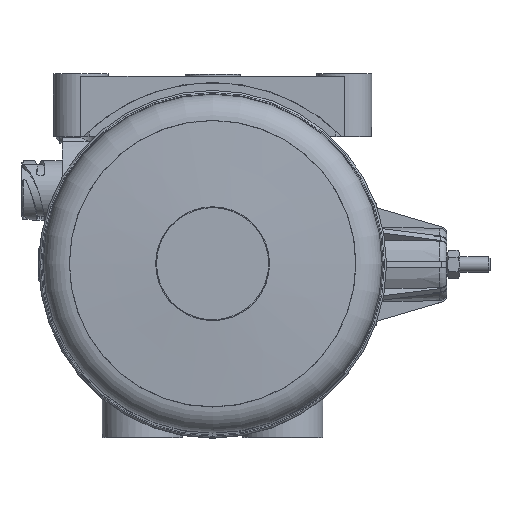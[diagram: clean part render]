
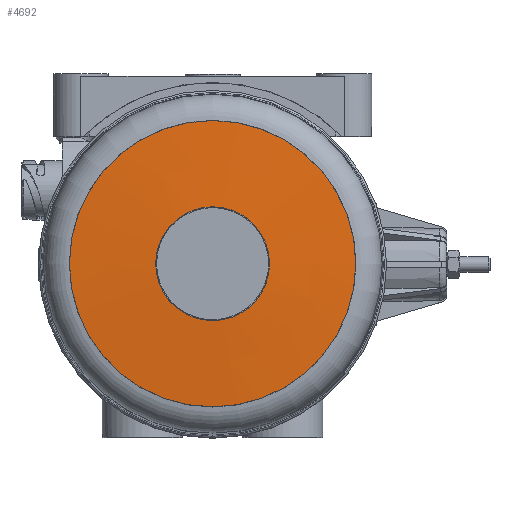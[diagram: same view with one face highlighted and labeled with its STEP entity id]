
A CAD part, top view. The second image highlights one B-rep face of the part: STEP entity #4692.
In plain terms, the highlighted conical face has half-angle 86.662 degrees and reference radius 57.141 mm.
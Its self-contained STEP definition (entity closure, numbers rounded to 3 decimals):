
#1758=CONICAL_SURFACE('',#39304,57.141,86.662);
#4692=ADVANCED_FACE('',(#12615,#12616),#1758,.T.);
#12615=FACE_BOUND('',#13968,.T.);
#12616=FACE_BOUND('',#13969,.T.);
#13968=EDGE_LOOP('',(#18807));
#13969=EDGE_LOOP('',(#18808));
#18807=ORIENTED_EDGE('',*,*,#32361,.F.);
#18808=ORIENTED_EDGE('',*,*,#32360,.T.);
#28057=VERTEX_POINT('',#59573);
#28058=VERTEX_POINT('',#59576);
#32360=EDGE_CURVE('',#28057,#28057,#36829,.T.);
#32361=EDGE_CURVE('',#28058,#28058,#36830,.T.);
#36829=CIRCLE('',#39301,57.141);
#36830=CIRCLE('',#39303,22.704);
#39301=AXIS2_PLACEMENT_3D('',#59572,#45027,#45028);
#39303=AXIS2_PLACEMENT_3D('',#59575,#45031,#45032);
#39304=AXIS2_PLACEMENT_3D('',#59577,#45033,#45034);
#45027=DIRECTION('',(0.,0.,1.));
#45028=DIRECTION('',(-1.,0.,0.));
#45031=DIRECTION('',(0.,0.,1.));
#45032=DIRECTION('',(1.,0.,0.));
#45033=DIRECTION('',(0.,0.,-1.));
#45034=DIRECTION('',(1.,0.,0.));
#59572=CARTESIAN_POINT('',(0.,0.,178.981));
#59573=CARTESIAN_POINT('',(-57.141,0.,178.981));
#59575=CARTESIAN_POINT('',(0.,0.,180.99));
#59576=CARTESIAN_POINT('',(22.704,0.,180.99));
#59577=CARTESIAN_POINT('',(0.,0.,178.981));
